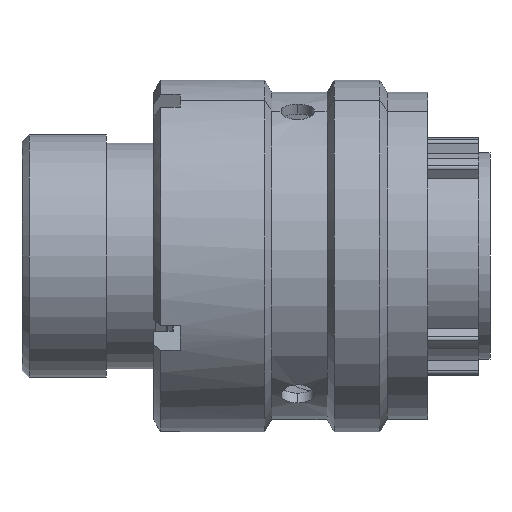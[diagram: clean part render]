
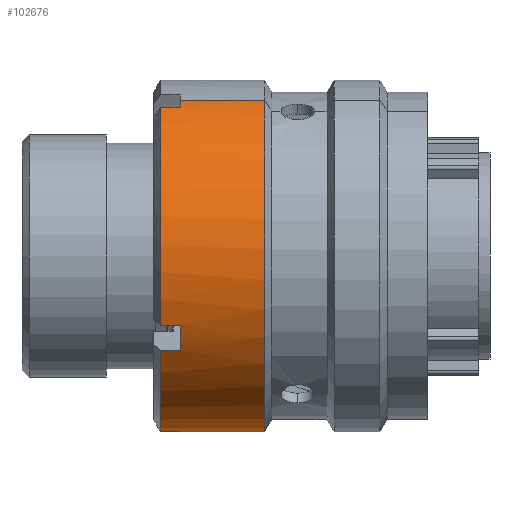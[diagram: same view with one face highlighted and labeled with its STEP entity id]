
A CAD part, front view. The second image highlights one B-rep face of the part: STEP entity #102676.
In plain terms, the highlighted cylindrical face has radius 12.55 mm (diameter 25.1 mm), a partial arc.
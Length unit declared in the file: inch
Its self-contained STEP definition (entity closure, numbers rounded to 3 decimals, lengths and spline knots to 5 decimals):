
#1633 = VERTEX_POINT ( 'NONE', #55869 ) ;
#1640 = VERTEX_POINT ( 'NONE', #55876 ) ;
#1646 = VERTEX_POINT ( 'NONE', #55880 ) ;
#1648 = VERTEX_POINT ( 'NONE', #55875 ) ;
#8424 = CIRCLE ( 'NONE', #8430, 0.49409 ) ;
#8430 = AXIS2_PLACEMENT_3D ( 'NONE', #12864, #12866, #12868 ) ;
#8436 = CIRCLE ( 'NONE', #8440, 0.49409 ) ;
#8437 = VECTOR ( 'NONE', #12950, 39.37008 ) ;
#8440 = AXIS2_PLACEMENT_3D ( 'NONE', #12957, #12959, #12961 ) ;
#8441 = CIRCLE ( 'NONE', #8446, 0.49409 ) ;
#8446 = AXIS2_PLACEMENT_3D ( 'NONE', #12988, #12990, #12992 ) ;
#8453 = VECTOR ( 'NONE', #13310, 39.37008 ) ;
#8456 = VECTOR ( 'NONE', #13130, 39.37008 ) ;
#8520 = VECTOR ( 'NONE', #13943, 39.37008 ) ;
#8524 = VECTOR ( 'NONE', #13950, 39.37008 ) ;
#8538 = CIRCLE ( 'NONE', #8540, 0.49409 ) ;
#8539 = CIRCLE ( 'NONE', #8542, 0.49409 ) ;
#8540 = AXIS2_PLACEMENT_3D ( 'NONE', #14161, #14163, #14165 ) ;
#8542 = AXIS2_PLACEMENT_3D ( 'NONE', #14171, #14173, #14175 ) ;
#8557 = VECTOR ( 'NONE', #14291, 39.37008 ) ;
#8646 = CIRCLE ( 'NONE', #8659, 0.49409 ) ;
#8659 = AXIS2_PLACEMENT_3D ( 'NONE', #14845, #14847, #14849 ) ;
#12864 = CARTESIAN_POINT ( 'NONE',  ( 0.3889, 0., 0. ) ) ;
#12866 = DIRECTION ( 'NONE',  ( 1., 0., 0. ) ) ;
#12868 = DIRECTION ( 'NONE',  ( 0., 0.466, -0.885 ) ) ;
#12914 = LINE ( 'NONE', #12946, #8437 ) ;
#12946 = CARTESIAN_POINT ( 'NONE',  ( 1.1389, -0.4541, -0.19473 ) ) ;
#12950 = DIRECTION ( 'NONE',  ( 1., 0., 0. ) ) ;
#12958 = EDGE_LOOP ( 'NONE', ( #109446, #109448, #109449, #109450, #109451, #109452, #109453, #109455, #109456, #109457, #109458, #109460 ) ) ;
#12957 = CARTESIAN_POINT ( 'NONE',  ( 0.44402, 0., 0. ) ) ;
#12959 = DIRECTION ( 'NONE',  ( 1., 0., 0. ) ) ;
#12961 = DIRECTION ( 'NONE',  ( 0., 0.466, -0.885 ) ) ;
#12988 = CARTESIAN_POINT ( 'NONE',  ( 0.44402, 0., 0. ) ) ;
#12990 = DIRECTION ( 'NONE',  ( 1., 0., 0. ) ) ;
#12992 = DIRECTION ( 'NONE',  ( 0., -0.885, -0.466 ) ) ;
#13118 = LINE ( 'NONE', #13128, #8456 ) ;
#13128 = CARTESIAN_POINT ( 'NONE',  ( 1.1389, -0.4174, -0.26439 ) ) ;
#13130 = DIRECTION ( 'NONE',  ( -1., 0., 0. ) ) ;
#13288 = LINE ( 'NONE', #13306, #8453 ) ;
#13306 = CARTESIAN_POINT ( 'NONE',  ( 1.1389, -0.26439, 0.4174 ) ) ;
#13310 = DIRECTION ( 'NONE',  ( -1., 0., 0. ) ) ;
#13925 = CARTESIAN_POINT ( 'NONE',  ( 1.1389, -0.23029, 0.43714 ) ) ;
#13934 = LINE ( 'NONE', #13925, #8520 ) ;
#13943 = DIRECTION ( 'NONE',  ( 1., 0., 0. ) ) ;
#13945 = LINE ( 'NONE', #13948, #8524 ) ;
#13948 = CARTESIAN_POINT ( 'NONE',  ( 1.1389, 0.23029, -0.43714 ) ) ;
#13950 = DIRECTION ( 'NONE',  ( 1., 0., 0. ) ) ;
#14161 = CARTESIAN_POINT ( 'NONE',  ( 0.68102, 0., 0. ) ) ;
#14163 = DIRECTION ( 'NONE',  ( 1., 0., 0. ) ) ;
#14165 = DIRECTION ( 'NONE',  ( 0., 0.466, -0.885 ) ) ;
#14171 = CARTESIAN_POINT ( 'NONE',  ( 0.44402, 0., 0. ) ) ;
#14173 = DIRECTION ( 'NONE',  ( 1., 0., 0. ) ) ;
#14175 = DIRECTION ( 'NONE',  ( 0., 0.885, 0.466 ) ) ;
#14262 = LINE ( 'NONE', #14287, #8557 ) ;
#14287 = CARTESIAN_POINT ( 'NONE',  ( 1.1389, 0.19473, -0.4541 ) ) ;
#14291 = DIRECTION ( 'NONE',  ( 1., 0., 0. ) ) ;
#14845 = CARTESIAN_POINT ( 'NONE',  ( 0.3889, 0., 0. ) ) ;
#14847 = DIRECTION ( 'NONE',  ( 1., 0., 0. ) ) ;
#14849 = DIRECTION ( 'NONE',  ( 0., 0.466, -0.885 ) ) ;
#19451 = AXIS2_PLACEMENT_3D ( 'NONE', #23854, #23929, #23931 ) ;
#23854 = CARTESIAN_POINT ( 'NONE',  ( 1.1389, 0., 0. ) ) ;
#23896 = CYLINDRICAL_SURFACE ( 'NONE', #19451, 0.49409 ) ;
#23898 = FACE_OUTER_BOUND ( 'NONE', #12958, .T. ) ;
#23929 = DIRECTION ( 'NONE',  ( 1., 0., 0. ) ) ;
#23931 = DIRECTION ( 'NONE',  ( 0., 0.466, -0.885 ) ) ;
#51462 = CARTESIAN_POINT ( 'NONE',  ( 0.44402, -0.4174, -0.26439 ) ) ;
#51466 = CARTESIAN_POINT ( 'NONE',  ( 0.44402, 0.19473, -0.4541 ) ) ;
#51514 = CARTESIAN_POINT ( 'NONE',  ( 0.68102, 0.23029, -0.43714 ) ) ;
#51540 = CARTESIAN_POINT ( 'NONE',  ( 0.68102, -0.23029, 0.43714 ) ) ;
#51546 = CARTESIAN_POINT ( 'NONE',  ( 0.44402, -0.23029, 0.43714 ) ) ;
#51566 = CARTESIAN_POINT ( 'NONE',  ( 0.44402, 0.23029, -0.43714 ) ) ;
#51648 = CARTESIAN_POINT ( 'NONE',  ( 0.44402, -0.4541, -0.19473 ) ) ;
#51652 = CARTESIAN_POINT ( 'NONE',  ( 0.3889, -0.4541, -0.19473 ) ) ;
#55869 = CARTESIAN_POINT ( 'NONE',  ( 0.3889, -0.26439, 0.4174 ) ) ;
#55875 = CARTESIAN_POINT ( 'NONE',  ( 0.3889, 0.19473, -0.4541 ) ) ;
#55876 = CARTESIAN_POINT ( 'NONE',  ( 0.44402, -0.26439, 0.4174 ) ) ;
#55880 = CARTESIAN_POINT ( 'NONE',  ( 0.3889, -0.4174, -0.26439 ) ) ;
#101131 = EDGE_CURVE ( 'NONE', #1633, #109710, #8424, .T. ) ;
#101146 = EDGE_CURVE ( 'NONE', #109710, #109704, #12914, .T. ) ;
#101148 = EDGE_CURVE ( 'NONE', #109704, #109527, #8436, .T. ) ;
#101154 = EDGE_CURVE ( 'NONE', #109605, #1640, #8441, .T. ) ;
#101183 = EDGE_CURVE ( 'NONE', #109527, #1646, #13118, .T. ) ;
#101197 = EDGE_CURVE ( 'NONE', #1640, #1633, #13288, .T. ) ;
#101306 = EDGE_CURVE ( 'NONE', #109605, #109601, #13934, .T. ) ;
#101308 = EDGE_CURVE ( 'NONE', #109626, #109577, #13945, .T. ) ;
#101342 = EDGE_CURVE ( 'NONE', #109601, #109577, #8538, .T. ) ;
#101343 = EDGE_CURVE ( 'NONE', #109529, #109626, #8539, .T. ) ;
#101369 = EDGE_CURVE ( 'NONE', #1648, #109529, #14262, .T. ) ;
#101454 = EDGE_CURVE ( 'NONE', #1646, #1648, #8646, .T. ) ;
#102676 = ADVANCED_FACE ( 'NONE', ( #23898 ), #23896, .T. ) ;
#109446 = ORIENTED_EDGE ( 'NONE', *, *, #101306, .F. ) ;
#109448 = ORIENTED_EDGE ( 'NONE', *, *, #101154, .T. ) ;
#109449 = ORIENTED_EDGE ( 'NONE', *, *, #101197, .T. ) ;
#109450 = ORIENTED_EDGE ( 'NONE', *, *, #101131, .T. ) ;
#109451 = ORIENTED_EDGE ( 'NONE', *, *, #101146, .T. ) ;
#109452 = ORIENTED_EDGE ( 'NONE', *, *, #101148, .T. ) ;
#109453 = ORIENTED_EDGE ( 'NONE', *, *, #101183, .T. ) ;
#109455 = ORIENTED_EDGE ( 'NONE', *, *, #101454, .T. ) ;
#109456 = ORIENTED_EDGE ( 'NONE', *, *, #101369, .T. ) ;
#109457 = ORIENTED_EDGE ( 'NONE', *, *, #101343, .T. ) ;
#109458 = ORIENTED_EDGE ( 'NONE', *, *, #101308, .T. ) ;
#109460 = ORIENTED_EDGE ( 'NONE', *, *, #101342, .F. ) ;
#109527 = VERTEX_POINT ( 'NONE', #51462 ) ;
#109529 = VERTEX_POINT ( 'NONE', #51466 ) ;
#109577 = VERTEX_POINT ( 'NONE', #51514 ) ;
#109601 = VERTEX_POINT ( 'NONE', #51540 ) ;
#109605 = VERTEX_POINT ( 'NONE', #51546 ) ;
#109626 = VERTEX_POINT ( 'NONE', #51566 ) ;
#109704 = VERTEX_POINT ( 'NONE', #51648 ) ;
#109710 = VERTEX_POINT ( 'NONE', #51652 ) ;
